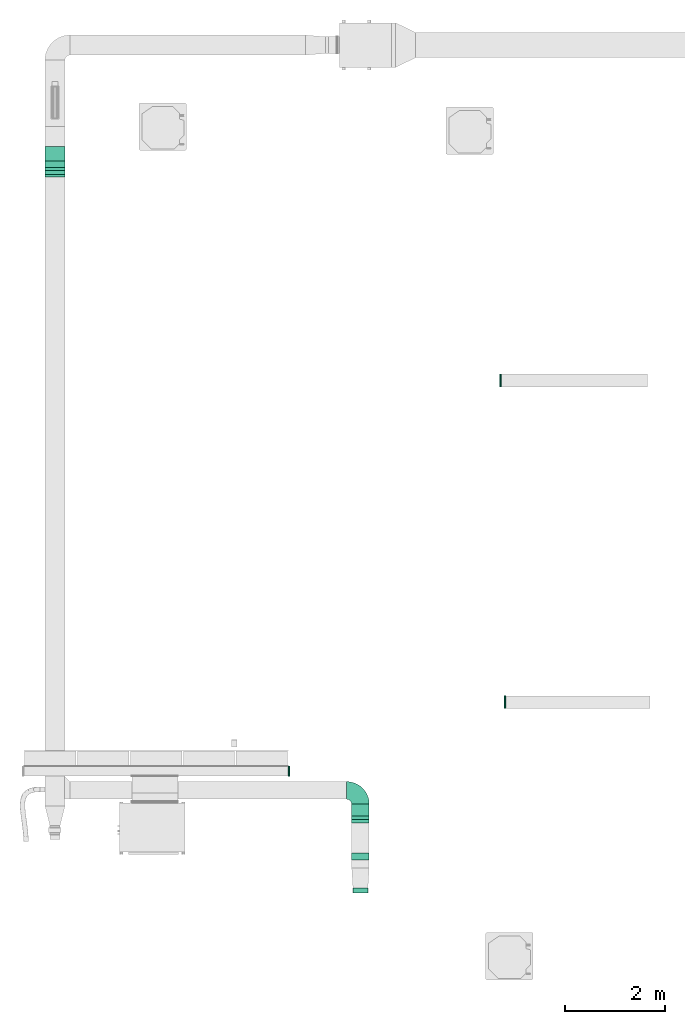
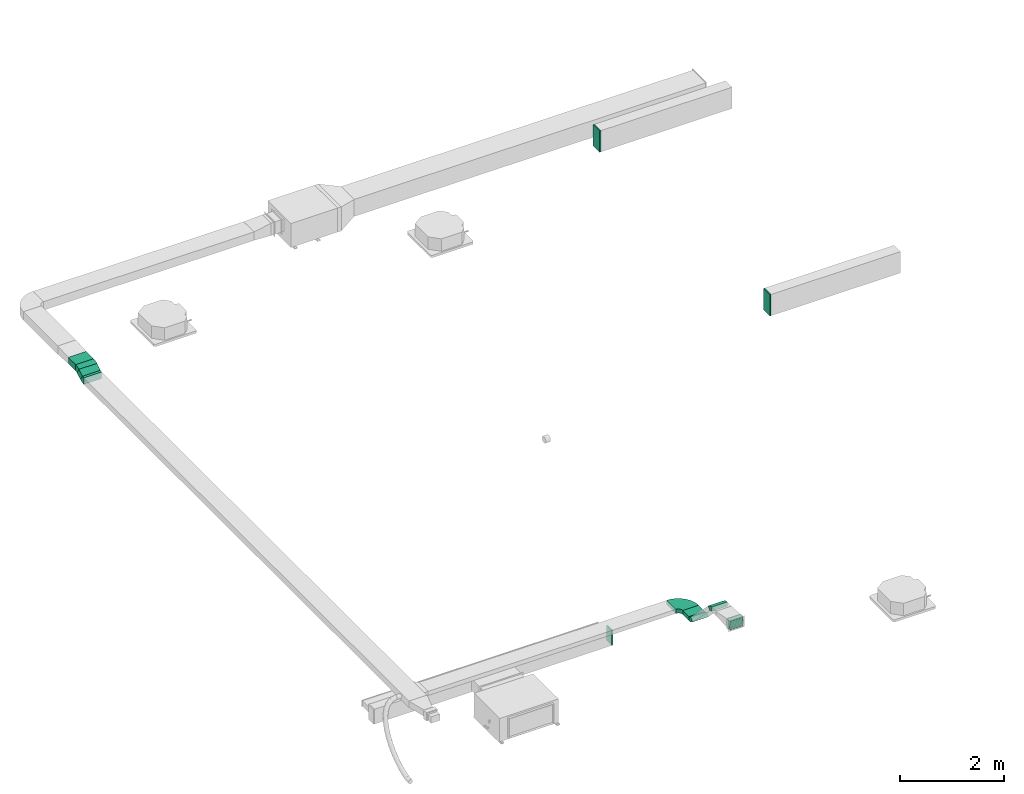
# One storey, part 4 of 15: 8 flow fittings, 4 flow segments.
"""IFC2X3 building model written with IfcOpenShell, lengths in millimetres."""

from ifc_helpers import new_model, entity, si_unit, converted_unit, derived_unit, direction, frame, frame_2d, origin, origin_2d_with_axis, place, context, subcontext, project, spatial, polyline, circle_curve, parameter, trimmed, segment, composite_curve, rectangle, outline, extrude, source, transform, mapped, material, type_object, type_shapes, element, save


model = new_model("IFC2X3")

# Units and contexts
model_context = context("Model", 3, precision=0.01, world=origin(), true_north=direction((6.123233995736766e-17, 1.0)))
body_context = subcontext(model_context, "Body", "Model", "MODEL_VIEW")
ifc_project = project(units=[si_unit("LENGTHUNIT", "METRE", prefix="MILLI"), converted_unit("PLANEANGLEUNIT", "DEGREE", entity("IfcPlaneAngleMeasure", 0.017453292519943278), si_unit("PLANEANGLEUNIT", "RADIAN"), dimensions=[0, 0, 0, 0, 0, 0, 0]), si_unit("AREAUNIT", "SQUARE_METRE"), derived_unit("THERMALTRANSMITTANCEUNIT", [(si_unit("MASSUNIT", "GRAM", prefix="KILO"), 1), (si_unit("THERMODYNAMICTEMPERATUREUNIT", "KELVIN"), -1), (si_unit("TIMEUNIT", "SECOND"), -3)])], contexts=[model_context])

# Site, building, storey
site_placement = place(None, origin())
site = spatial("IfcSite", under=ifc_project, at=site_placement, Name="Default", CompositionType="ELEMENT")
building_placement = place(site_placement, origin())
building = spatial("IfcBuilding", under=site, at=building_placement, Name="Praça Pedro II, 1301 - Centro (Sul), Teresina - PI, 64001-100", CompositionType="ELEMENT")
storey_placement = place(building_placement, frame((0.0, 0.0, 3020.0)))
storey = spatial("IfcBuildingStorey", under=building, at=storey_placement, Name="1PAV", CompositionType="ELEMENT", Elevation=3020.0)

# Flow segments
duct_segment_type_1 = type_object("IfcDuctSegmentType", Name="Duto retangular:Raios cotovelos / tês", PredefinedType="NOTDEFINED")
flow_segment_1_placement = place(storey_placement, origin())
element("IfcFlowSegment", 1, at=flow_segment_1_placement, inside=storey, type_object=duct_segment_type_1, Name="Duto retangular:Raios cotovelos / tês", ObjectType="Duto retangular:Raios cotovelos / tês", context=body_context, shape_type="SweptSolid", body=[
    extrude(rectangle(XDim=150.0000000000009, YDim=157.01220161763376, at=frame_2d((-1.3500311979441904e-13, -2.2737367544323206e-13), x_axis=(0.0, 1.0))), frame((6195.3507478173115, -54032.28641553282, 1562.6986047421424), z_axis=(1.0, 0.0, 0.0), x_axis=(0.0, 0.8660254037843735, 0.5000000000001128)), (0.0, 0.0, 1.0), 400.00000000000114),
])
flow_segment_2_placement = place(storey_placement, origin())
element("IfcFlowSegment", 2, at=flow_segment_2_placement, inside=storey, type_object=duct_segment_type_1, Name="Duto retangular:Raios cotovelos / tês", ObjectType="Duto retangular:Raios cotovelos / tês", context=body_context, shape_type="SweptSolid", body=[
    extrude(rectangle(XDim=287.33915037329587, YDim=400.0, at=frame_2d((-4.320099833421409e-12, -5.542233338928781e-13), x_axis=(1.0, 0.0))), frame((6395.350747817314, -53733.12856269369, 1550.397209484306), z_axis=(0.0, 0.0, 1.0), x_axis=(0.0, 1.0, 0.0)), (0.0, 0.0, 1.0), 150.00000000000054),
])
duct_segment_type_2 = type_object("IfcDuctSegmentType", Name="Duto retangular:Raios cotovelos / torneiras", PredefinedType="NOTDEFINED")
flow_segment_3_placement = place(storey_placement, origin())
element("IfcFlowSegment", 3, at=flow_segment_3_placement, inside=storey, type_object=duct_segment_type_2, Name="Duto retangular:Raios cotovelos / torneiras", ObjectType="Duto retangular:Raios cotovelos / torneiras", context=body_context, shape_type="SweptSolid", body=[
    extrude(rectangle(XDim=236.96795026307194, YDim=350.00000000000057, at=origin_2d_with_axis()), frame((12484.101734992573, -66812.64109899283, 1450.0), z_axis=(0.0, 0.0, 1.0), x_axis=(0.0, -1.0, 0.0)), (0.0, 0.0, 1.0), 100.0),
])
flow_segment_4_placement = place(storey_placement, origin())
element("IfcFlowSegment", 4, at=flow_segment_4_placement, inside=storey, type_object=duct_segment_type_2, Name="Duto retangular:Raios cotovelos / torneiras", ObjectType="Duto retangular:Raios cotovelos / torneiras", context=body_context, shape_type="SweptSolid", body=[
    extrude(rectangle(XDim=96.0791771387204, YDim=299.9999999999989, at=frame_2d((8.661515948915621e-12, 0.0), x_axis=(1.0, 0.0))), frame((12484.101734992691, -68411.27236988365, 2150.0), z_axis=(0.0, 0.0, 1.0), x_axis=(0.0, 1.0, 0.0)), (0.0, 0.0, 1.0), 200.0),
])

# Flow fittings
ifc_material = material(Name="<Unnamed>")
duct_fitting_type_1 = type_object("IfcDuctFittingType", Name="M_Tampa retangular:Padrão", PredefinedType="NOTDEFINED", material=ifc_material)
shared_shape_1 = source(origin(), body_context, "Body", "SweptSolid", [
    extrude(rectangle(XDim=24.999999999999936, YDim=250.00000000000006, at=origin_2d_with_axis()), frame((12.500000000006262, 0.0, -250.0)), (0.0, 0.0, 1.0), 500.00000000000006),
])
type_shapes(duct_fitting_type_1, [shared_shape_1])
for number, where, z_axis, x_axis in (
    (5, (15287.837997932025, -58248.42127782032, 6500.0), (0.0, 0.0, 1.0), (-1.0, 0.0, 0.0)),
    (6, (15377.387149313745, -64657.408035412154, 6500.0), (0.0, 0.0, 1.0), (-1.0, 0.0, 0.0)),
):
    element("IfcFlowFitting", number, at=place(storey_placement, frame(where, z_axis=z_axis, x_axis=x_axis)), inside=storey, type_object=duct_fitting_type_1, material=ifc_material, Name="M_Tampa retangular:Padrão", ObjectType="M_Tampa retangular:Padrão", context=body_context, shape_type="MappedRepresentation", body=[
        mapped(shared_shape_1, transform((0.0, 0.0, 0.0), scale=1.0)),
    ])
duct_fitting_type_2 = type_object("IfcDuctFittingType", Name="M_Tampa retangular:Padrão", PredefinedType="NOTDEFINED", material=ifc_material)
shared_shape_2 = source(origin(), body_context, "Body", "SweptSolid", [
    extrude(rectangle(XDim=24.999999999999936, YDim=200.00000000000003, at=frame_2d((-8.881784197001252e-16, 0.0), x_axis=(1.0, 0.0))), frame((12.500000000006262, 0.0, -175.0)), (0.0, 0.0, 1.0), 350.0),
])
type_shapes(duct_fitting_type_2, [shared_shape_2])
flow_fitting_1_placement = place(storey_placement, frame((11048.907626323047, -66034.01222456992, 1000.0)))
element("IfcFlowFitting", 7, at=flow_fitting_1_placement, inside=storey, type_object=duct_fitting_type_2, material=ifc_material, Name="M_Tampa retangular:Padrão", ObjectType="M_Tampa retangular:Padrão", context=body_context, shape_type="MappedRepresentation", body=[
    mapped(shared_shape_2, transform((0.0, 0.0, 0.0), scale=1.0)),
])
duct_fitting_type_3 = type_object("IfcDuctFittingType", Name="BTS vanes:1 Splitter Vanes", PredefinedType="NOTDEFINED", material=ifc_material)
shared_shape_3 = source(origin(), body_context, "Body", "SweptSolid", [
    extrude(outline(composite_curve([segment(polyline([(-86.7227771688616, -43.74999999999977), (63.27722283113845, -43.74999999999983)]), True, "CONTINUOUS"), segment(trimmed(circle_curve(frame_2d((163.27722283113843, -43.74999999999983), x_axis=(-0.8660254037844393, 0.5)), 100.0), [parameter(0.0)], [parameter(29.999999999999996)], True, "PARAMETER"), False, "CONTINUOUS"), segment(polyline([(76.67468245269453, 6.250000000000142), (-53.229128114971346, 81.25000000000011)]), True, "CONTINUOUS"), segment(trimmed(circle_curve(frame_2d((163.27722283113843, -43.74999999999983), x_axis=(-0.8660254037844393, 0.5)), 250.00000000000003), [parameter(0.0)], [parameter(29.999999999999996)], True, "PARAMETER"), True, "CONTINUOUS")], self_intersect=False)), frame((-3.141108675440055, 11.722777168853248, -200.0), z_axis=(0.0, 0.0, 1.0), x_axis=(-0.4999999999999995, 0.866025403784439, 0.0)), (0.0, 0.0, 1.0), 399.9999999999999),
    extrude(outline(composite_curve([segment(polyline([(-26.353758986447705, -29.605263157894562), (10.488346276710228, -29.605263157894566)]), True, "CONTINUOUS"), segment(trimmed(circle_curve(frame_2d((110.48834627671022, -29.60526315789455), x_axis=(-0.8660254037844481, 0.5)), 100.0), [parameter(0.0)], [parameter(29.999999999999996)], True, "PARAMETER"), False, "CONTINUOUS"), segment(polyline([(23.885805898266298, 20.394736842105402), (-8.020393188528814, 38.81578947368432)]), True, "CONTINUOUS"), segment(trimmed(circle_curve(frame_2d((110.48834627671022, -29.60526315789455), x_axis=(-0.8660254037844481, 0.5)), 136.8421052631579), [parameter(0.0)], [parameter(29.999999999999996)], True, "PARAMETER"), True, "CONTINUOUS")], self_intersect=False)), frame((-17.285845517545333, 64.51165372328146, -200.0), z_axis=(0.0, 0.0, 1.0), x_axis=(-0.4999999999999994, 0.866025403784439, 0.0)), (0.0, 0.0, 1.0), 400.0),
])
type_shapes(duct_fitting_type_3, [shared_shape_3])
for number, where, z_axis, x_axis, name in (
    (8, (6395.350747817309, -53923.68924655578, 1625.397209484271), (-1.0, 0.0, 0.0), (0.0, 0.8660254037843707, 0.5000000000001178), "BTS vanes:1 Splitter Vanes"),
    (9, (6395.350747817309, -54140.88358450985, 1500.0), (-1.0, 0.0, 0.0), (0.0, -0.8660254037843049, -0.5000000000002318), "BTS vanes:1 Splitter Vanes"),
):
    element("IfcFlowFitting", number, at=place(storey_placement, frame(where, z_axis=z_axis, x_axis=x_axis)), inside=storey, type_object=duct_fitting_type_3, material=ifc_material, Name=name, ObjectType="BTS vanes:1 Splitter Vanes", context=body_context, shape_type="MappedRepresentation", body=[
        mapped(shared_shape_3, transform((0.0, 0.0, 0.0), scale=1.0)),
    ])
duct_fitting_type_4 = type_object("IfcDuctFittingType", Name="BTS vanes:1 Splitter Vanes", PredefinedType="NOTDEFINED", material=ifc_material)
shared_shape_4 = source(origin(), body_context, "Body", "SweptSolid", [
    extrude(outline(composite_curve([segment(polyline([(-312.5, -137.4999999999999), (37.5, -137.4999999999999)]), True, "CONTINUOUS"), segment(trimmed(circle_curve(frame_2d((137.50000000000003, -137.49999999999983), x_axis=(0.0, 1.0)), 99.99999999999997), [parameter(0.0)], [parameter(90.00000000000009)], True, "PARAMETER"), False, "CONTINUOUS"), segment(polyline([(137.50000000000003, -37.49999999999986), (137.50000000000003, 312.50000000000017)]), True, "CONTINUOUS"), segment(trimmed(circle_curve(frame_2d((137.50000000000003, -137.49999999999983), x_axis=(0.0, 1.0)), 450.00000000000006), [parameter(0.0)], [parameter(90.00000000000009)], True, "PARAMETER"), True, "CONTINUOUS")], self_intersect=False)), frame((-137.49999999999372, 137.49999999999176, -50.0), z_axis=(0.0, 0.0, 1.0), x_axis=(-1.0, 0.0, 0.0)), (0.0, 0.0, 1.0), 100.0),
    extrude(outline(composite_curve([segment(polyline([(-77.63157894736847, -59.210526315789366), (-40.78947368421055, -59.210526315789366)]), True, "CONTINUOUS"), segment(trimmed(circle_curve(frame_2d((59.21052631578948, -59.210526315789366), x_axis=(0.0, 1.0)), 100.0), [parameter(0.0)], [parameter(90.00000000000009)], True, "PARAMETER"), False, "CONTINUOUS"), segment(polyline([(59.21052631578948, 40.78947368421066), (59.21052631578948, 77.63157894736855)]), True, "CONTINUOUS"), segment(trimmed(circle_curve(frame_2d((59.21052631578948, -59.210526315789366), x_axis=(0.0, 1.0)), 136.84210526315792), [parameter(0.0)], [parameter(90.00000000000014)], True, "PARAMETER"), True, "CONTINUOUS")], self_intersect=False)), frame((-215.78947368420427, 215.78947368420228, -50.0), z_axis=(0.0, 0.0, 1.0), x_axis=(-1.0, 0.0, 0.0)), (0.0, 0.0, 1.0), 100.0),
])
type_shapes(duct_fitting_type_4, [shared_shape_4])
flow_fitting_2_placement = place(storey_placement, frame((12484.101734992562, -66419.15712386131, 1500.0), z_axis=(0.0, 0.0, 1.0), x_axis=(0.0, 1.0, 0.0)))
element("IfcFlowFitting", 10, at=flow_fitting_2_placement, inside=storey, type_object=duct_fitting_type_4, material=ifc_material, Name="BTS vanes:1 Splitter Vanes", ObjectType="BTS vanes:1 Splitter Vanes", context=body_context, shape_type="MappedRepresentation", body=[
    mapped(shared_shape_4, transform((0.0, 0.0, 0.0), scale=1.0)),
])
duct_fitting_type_5 = type_object("IfcDuctFittingType", Name="BTS vanes:1 Splitter Vanes", PredefinedType="NOTDEFINED", material=ifc_material)
shared_shape_5 = source(origin(), body_context, "Body", "SweptSolid", [
    extrude(outline(composite_curve([segment(polyline([(-71.96699141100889, -53.03300858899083), (28.03300858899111, -53.03300858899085)]), True, "CONTINUOUS"), segment(trimmed(circle_curve(frame_2d((128.03300858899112, -53.03300858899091), x_axis=(-0.7071067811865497, 0.7071067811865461)), 100.0), [parameter(0.0)], [parameter(44.99999999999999)], True, "PARAMETER"), False, "CONTINUOUS"), segment(polyline([(57.3223304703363, 17.67766952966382), (-13.388347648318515, 88.38834764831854)]), True, "CONTINUOUS"), segment(trimmed(circle_curve(frame_2d((128.03300858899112, -53.03300858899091), x_axis=(-0.7071067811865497, 0.7071067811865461)), 200.0), [parameter(0.0)], [parameter(44.99999999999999)], True, "PARAMETER"), True, "CONTINUOUS")], self_intersect=False)), frame((-9.099025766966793, 21.966991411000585, -175.0), z_axis=(0.0, 0.0, 1.0), x_axis=(-0.707106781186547, 0.707106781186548, 0.0)), (0.0, 0.0, 1.0), 350.0),
    extrude(outline(composite_curve([segment(polyline([(-35.76341427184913, -41.86816467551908), (1.078690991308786, -41.868164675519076)]), True, "CONTINUOUS"), segment(trimmed(circle_curve(frame_2d((101.07869099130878, -41.868164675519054), x_axis=(-0.7071067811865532, 0.7071067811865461)), 99.99999999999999), [parameter(0.0)], [parameter(44.99999999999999)], True, "PARAMETER"), False, "CONTINUOUS"), segment(polyline([(30.36801287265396, 28.84251344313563), (4.316710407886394, 54.893815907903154)]), True, "CONTINUOUS"), segment(trimmed(circle_curve(frame_2d((101.07869099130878, -41.868164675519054), x_axis=(-0.7071067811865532, 0.7071067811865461)), 136.8421052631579), [parameter(0.0)], [parameter(44.99999999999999)], True, "PARAMETER"), True, "CONTINUOUS")], self_intersect=False)), frame((-20.26386968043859, 48.92130900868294, -175.0), z_axis=(0.0, 0.0, 1.0), x_axis=(-0.707106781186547, 0.7071067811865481, 0.0)), (0.0, 0.0, 1.0), 350.0),
])
type_shapes(duct_fitting_type_5, [shared_shape_5])
for number, where, z_axis, x_axis, name in (
    (11, (12484.101734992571, -66993.2571084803, 1500.0), (-1.0, 0.0, 0.0), (0.0, -1.0, 0.0), "BTS vanes:1 Splitter Vanes"),
    (12, (12484.101734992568, -67743.2571084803, 2250.0), (1.0, 0.0, 0.0), (0.0, -0.7071067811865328, 0.7071067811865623), "BTS vanes:1 Splitter Vanes"),
):
    element("IfcFlowFitting", number, at=place(storey_placement, frame(where, z_axis=z_axis, x_axis=x_axis)), inside=storey, type_object=duct_fitting_type_5, material=ifc_material, Name=name, ObjectType="BTS vanes:1 Splitter Vanes", context=body_context, shape_type="MappedRepresentation", body=[
        mapped(shared_shape_5, transform((0.0, 0.0, 0.0), scale=1.0)),
    ])

save(model, "model.ifc")
